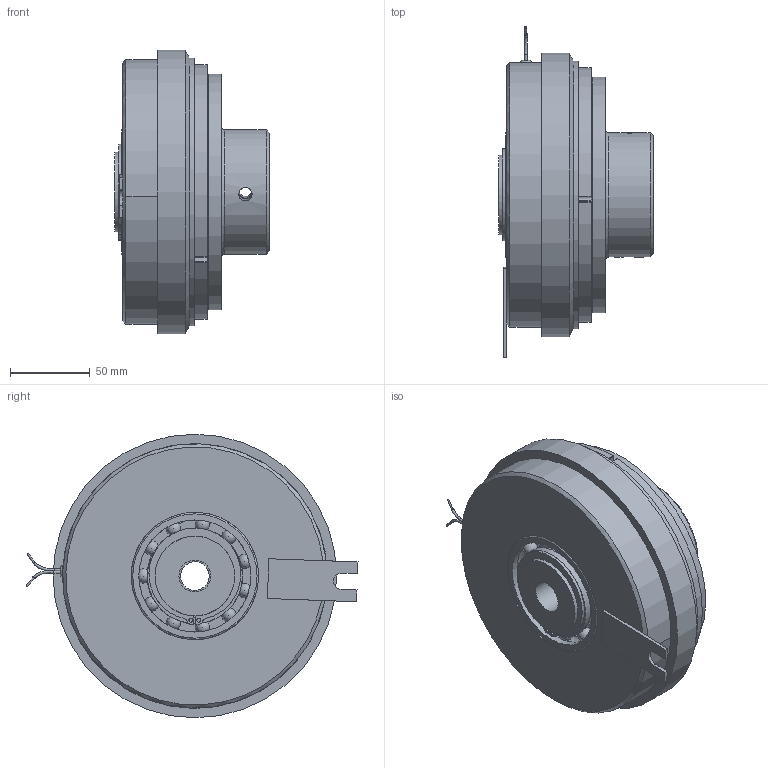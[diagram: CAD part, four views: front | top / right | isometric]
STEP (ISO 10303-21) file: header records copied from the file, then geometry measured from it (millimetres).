
FILE_DESCRIPTION(/* description */ (''),/* implementation_level */ '2;1');
FILE_NAME(/* name */ 'X:\INVENTOR\DISEGNI\08_Freni_Friz_Elettmag_Monodisco\08_25 EMSL\08_25_170_02 EMSL170_ME\08_25_170_02 EMSL170_ME@STEP.stp',/* time_stamp */ '2023-03-22T09:21:29+01:00',/* author */ ('alessio'),/* organization */ (''),/* preprocessor_version */ 'ST-DEVELOPER v18.1',/* originating_system */ 'Autodesk Inventor 2021',/* authorisation */ '');
FILE_SCHEMA (('AUTOMOTIVE_DESIGN { 1 0 10303 214 3 1 1 }'));
Length unit declared in the file: millimetre
Products named in the file (1): 08_25_170_02 EMSL170_ME
Bounding box: 97 x 208.38 x 178 mm (x, y, z)
Volume: 1297035.5 mm3; surface area: 214027 mm2
Topology: 1 solids, 7 shells, 364 faces, 1015 edges, 648 vertices
Faces by surface type: plane 143, cylinder 134, torus 54, sphere 22, cone 9, bspline 2
Full cylindrical faces by diameter (mm): 1.154 x2, 1.5 x1, 2.5 x2, 3 x5, 6.647 x3, 8 x3, 8.1 x3, 8.2 x6, 8.376 x2, 12 x3, 18 x1, 20 x1, 21 x6, 47 x1, 50 x4, 59.6 x4, 60 x1, 70.4 x4, 78 x1, 80 x3, 97 x1, 98 x1, 100 x1, 118 x1, 142 x1, 148 x1, 154 x1, 166.25 x1, 168 x1, 178 x1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
Entity records: 14352 total; most frequent: CARTESIAN_POINT 4648, DIRECTION 2018, ORIENTED_EDGE 1944, EDGE_CURVE 972, AXIS2_PLACEMENT_3D 874, VERTEX_POINT 648, CIRCLE 511, EDGE_LOOP 468
